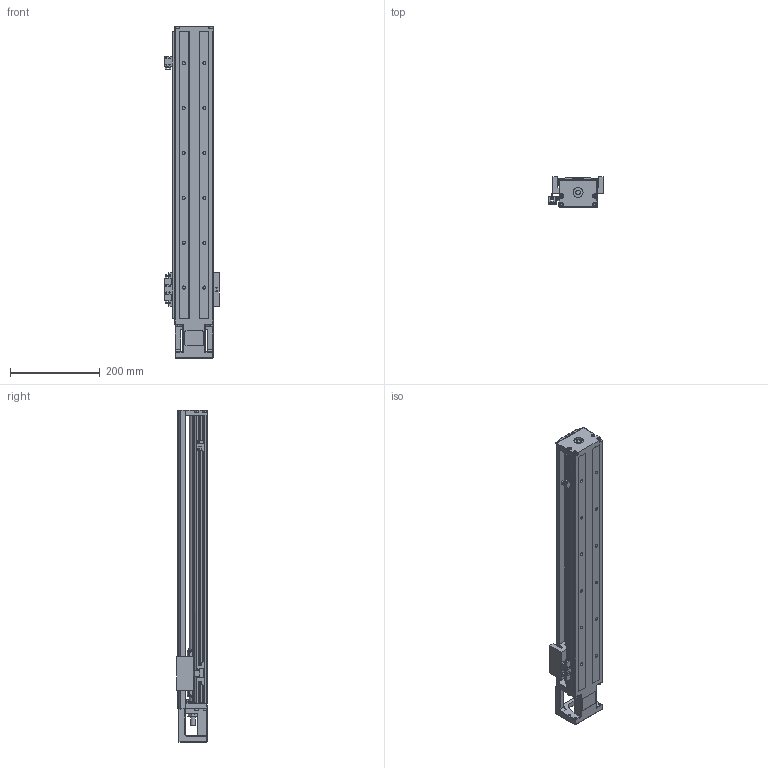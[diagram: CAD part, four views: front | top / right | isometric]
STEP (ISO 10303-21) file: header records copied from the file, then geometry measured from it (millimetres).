
FILE_DESCRIPTION (( 'STEP AP214' ), '1' );
FILE_NAME ('SFKK8620C-640A1-F0CS2.STEP', '2022-04-20T12:48:42', ( '微软用户' ), ( '微软中国' ), 'SwSTEP 2.0', 'SolidWorks 2018', '' );
FILE_SCHEMA (( 'AUTOMOTIVE_DESIGN' ));
Length unit declared in the file: millimetre
Products named in the file (11): SFKK86-LR 憤癹寢耋_640; SFKK86-A1-C; SX674嫖萇羲壽; 极限轨道与开关固定座组合_640; SFKK86-F0_KKR86-ZT-P-640; hexagon socket countersunk head screws gb_GB_FASTENER_SCREWS_HSCHS M4X10-N; SFKK8620C-640A1-F0CS2; hexagon socket countersunk head screws gb_GB_FASTENER_SCREWS_HSCHS M3X8-N; SFKK86-CU_640; 带盖挡光片：KK-86-S2-D1; 开关固定座：KK-674S2-F
Assembly tree (17 placements, depth 3):
  SFKK8620C-640A1-F0CS2
    SFKK86-F0_KKR86-ZT-P-640
    SFKK86-A1-C
    极限轨道与开关固定座组合_640
      SFKK86-LR 憤癹寢耋_640
      开关固定座：KK-674S2-F  x2
    SX674嫖萇羲壽  x3
    带盖挡光片：KK-86-S2-D1
    hexagon socket countersunk head screws gb_GB_FASTENER_SCREWS_HSCHS M3X8-N  x2
    SFKK86-CU_640
    hexagon socket countersunk head screws gb_GB_FASTENER_SCREWS_HSCHS M4X10-N  x4
Bounding box: 121.25 x 68 x 740 mm (x, y, z)
Volume: 1787211.4 mm3; surface area: 548537.5 mm2
Topology: 38 solids, 38 shells, 1937 faces, 4955 edges, 3077 vertices
Faces by surface type: plane 925, cylinder 682, cone 232, torus 67, sphere 23, bspline 8
Entity records: 58091 total; most frequent: CARTESIAN_POINT 14241, DIRECTION 9103, ORIENTED_EDGE 8632, EDGE_CURVE 4316, AXIS2_PLACEMENT_3D 3241, VERTEX_POINT 2751, VECTOR 2621, LINE 2621
